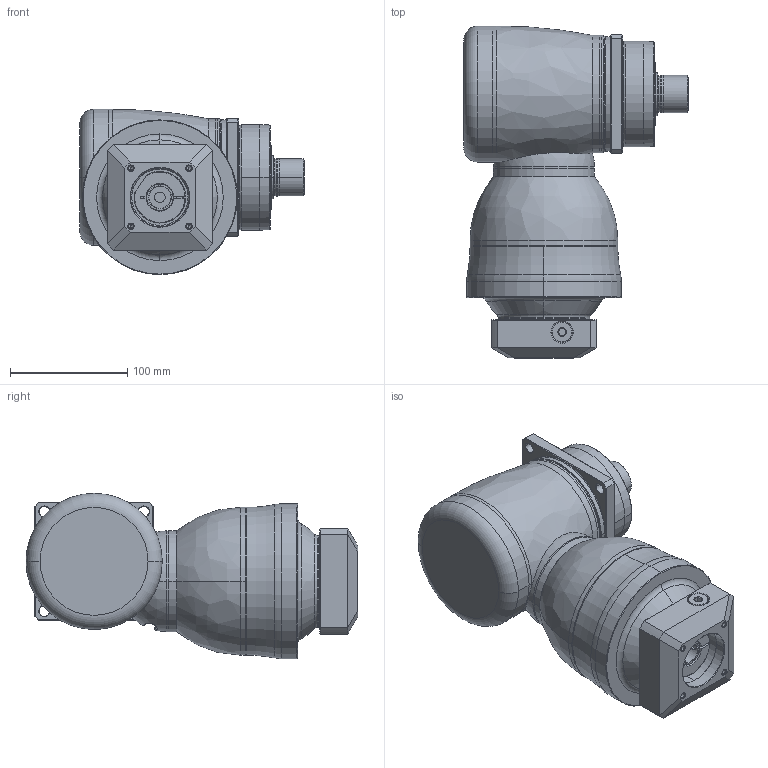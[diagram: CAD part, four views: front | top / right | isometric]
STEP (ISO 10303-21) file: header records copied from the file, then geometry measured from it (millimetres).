
FILE_DESCRIPTION((''),'2;1');
FILE_NAME('KF100_S3_2ST_19-P0409400101_ASM','2016-07-07T',('d01943'),(''),'PRO/ENGINEER BY PARAMETRIC TECHNOLOGY CORPORATION, 2008410','PRO/ENGINEER BY PARAMETRIC TECHNOLOGY CORPORATION, 2008410','');
FILE_SCHEMA(('CONFIG_CONTROL_DESIGN'));
Length unit declared in the file: millimetre
Products named in the file (11): P1008400002; P1804400001; P0915402001; P1315400001; P1007400001; P1317400101; P0409400101; P0503400006; P0912302001; 21711412017; KF100_S3_2ST_19-P0409400101_ASM
Assembly tree (10 placements, depth 2):
  KF100_S3_2ST_19-P0409400101_ASM
    P1008400002
    P1804400001
    P0915402001
    P1315400001
    P1007400001
    P1317400101
    P0409400101
    P0503400006
    P0912302001
    21711412017
Bounding box: 191.3 x 283 x 141 mm (x, y, z)
Volume: 2924916.1 mm3; surface area: 299381.5 mm2
Topology: 11 solids, 11 shells, 474 faces, 1052 edges, 617 vertices
Faces by surface type: cylinder 150, cone 122, plane 96, torus 68, bspline 36, sphere 2
Entity records: 18642 total; most frequent: CARTESIAN_POINT 8024, DIRECTION 2326, ORIENTED_EDGE 2064, EDGE_CURVE 1032, AXIS2_PLACEMENT_3D 989, VERTEX_POINT 617, EDGE_LOOP 535, CIRCLE 530
